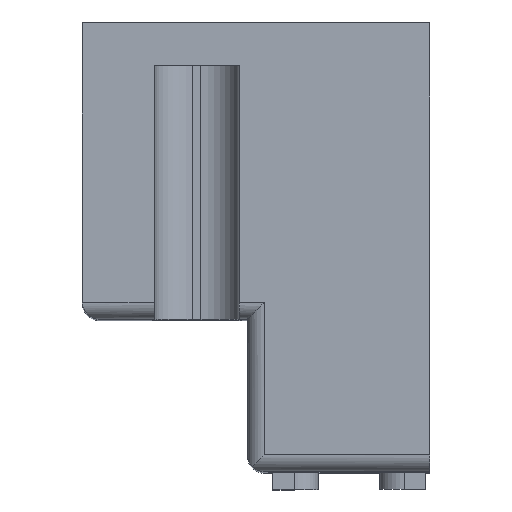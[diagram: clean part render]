
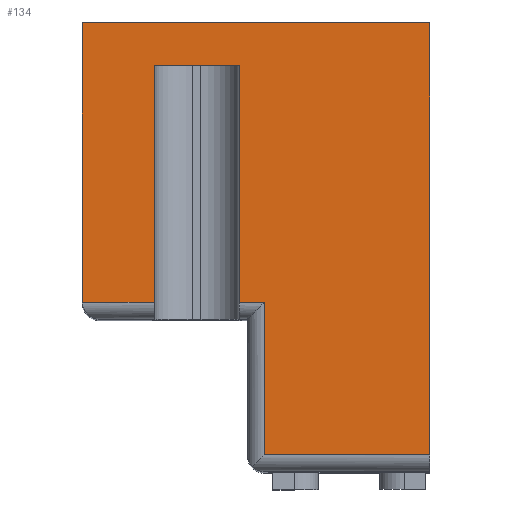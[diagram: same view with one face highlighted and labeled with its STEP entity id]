
A CAD part, top view. The second image highlights one B-rep face of the part: STEP entity #134.
In plain terms, the highlighted planar face has unit normal (0, 0, 1).
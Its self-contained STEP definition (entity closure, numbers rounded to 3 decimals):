
#134=ADVANCED_FACE('',(#549),#548,.F.);
#548=PLANE('',#2500);
#549=FACE_OUTER_BOUND('',#2501,.T.);
#2497=CARTESIAN_POINT('',(45.1,-61.1,62.2));
#2498=DIRECTION('',(0.,0.,-1.));
#2499=DIRECTION('',(-1.,0.,0.));
#2500=AXIS2_PLACEMENT_3D('',#2497,#2498,#2499);
#2501=EDGE_LOOP('',(#3583,#3584,#3585,#3586,#3587,#3588,#3589,#3590,#3591,#3592));
#3583=ORIENTED_EDGE('',*,*,#4550,.F.);
#3584=ORIENTED_EDGE('',*,*,#4583,.T.);
#3585=ORIENTED_EDGE('',*,*,#4584,.F.);
#3586=ORIENTED_EDGE('',*,*,#4585,.F.);
#3587=ORIENTED_EDGE('',*,*,#4586,.T.);
#3588=ORIENTED_EDGE('',*,*,#4479,.T.);
#3589=ORIENTED_EDGE('',*,*,#4587,.T.);
#3590=ORIENTED_EDGE('',*,*,#4588,.T.);
#3591=ORIENTED_EDGE('',*,*,#4481,.T.);
#3592=ORIENTED_EDGE('',*,*,#4589,.T.);
#4479=EDGE_CURVE('',#5206,#5220,#5227,.T.);
#4481=EDGE_CURVE('',#5241,#5234,#5242,.T.);
#4550=EDGE_CURVE('',#5716,#5723,#5724,.T.);
#4583=EDGE_CURVE('',#5716,#5948,#5949,.T.);
#4584=EDGE_CURVE('',#5955,#5948,#5956,.T.);
#4585=EDGE_CURVE('',#5962,#5955,#5963,.T.);
#4586=EDGE_CURVE('',#5962,#5206,#5969,.T.);
#4587=EDGE_CURVE('',#5220,#5975,#5976,.T.);
#4588=EDGE_CURVE('',#5975,#5241,#5982,.T.);
#4589=EDGE_CURVE('',#5234,#5723,#5988,.T.);
#5206=VERTEX_POINT('',#8566);
#5220=VERTEX_POINT('',#8575);
#5227=LINE('',#8579,#8580);
#5234=VERTEX_POINT('',#8583);
#5241=VERTEX_POINT('',#8587);
#5242=LINE('',#8588,#8589);
#5716=VERTEX_POINT('',#8863);
#5723=VERTEX_POINT('',#8867);
#5724=LINE('',#8868,#8869);
#5948=VERTEX_POINT('',#9002);
#5949=LINE('',#9003,#9004);
#5955=VERTEX_POINT('',#9006);
#5956=LINE('',#9007,#9008);
#5962=VERTEX_POINT('',#9010);
#5963=LINE('',#9011,#9012);
#5969=LINE('',#9014,#9015);
#5975=VERTEX_POINT('',#9017);
#5976=LINE('',#9018,#9019);
#5982=LINE('',#9021,#9022);
#5988=LINE('',#9024,#9025);
#8566=CARTESIAN_POINT('',(18.5,-38.,62.2));
#8575=CARTESIAN_POINT('',(21.5,-38.,62.2));
#8579=CARTESIAN_POINT('',(18.5,-38.,62.2));
#8580=VECTOR('',#8581,3.);
#8581=DIRECTION('',(1.,0.,0.));
#8583=CARTESIAN_POINT('',(41.,-5.,62.2));
#8587=CARTESIAN_POINT('',(41.,-56.,62.2));
#8588=CARTESIAN_POINT('',(41.,-56.,62.2));
#8589=VECTOR('',#8590,51.);
#8590=DIRECTION('',(0.,1.,0.));
#8863=CARTESIAN_POINT('',(0.,-38.,62.2));
#8867=CARTESIAN_POINT('',(0.,-5.,62.2));
#8868=CARTESIAN_POINT('',(0.,-38.,62.2));
#8869=VECTOR('',#8870,33.);
#8870=DIRECTION('',(0.,1.,0.));
#9002=CARTESIAN_POINT('',(8.5,-38.,62.2));
#9003=CARTESIAN_POINT('',(0.,-38.,62.2));
#9004=VECTOR('',#9005,8.5);
#9005=DIRECTION('',(1.,0.,0.));
#9006=CARTESIAN_POINT('',(8.5,-10.,62.2));
#9007=CARTESIAN_POINT('',(8.5,-10.,62.2));
#9008=VECTOR('',#9009,28.);
#9009=DIRECTION('',(0.,-1.,0.));
#9010=CARTESIAN_POINT('',(18.5,-10.,62.2));
#9011=CARTESIAN_POINT('',(18.5,-10.,62.2));
#9012=VECTOR('',#9013,10.);
#9013=DIRECTION('',(-1.,0.,0.));
#9014=CARTESIAN_POINT('',(18.5,-10.,62.2));
#9015=VECTOR('',#9016,28.);
#9016=DIRECTION('',(0.,-1.,0.));
#9017=CARTESIAN_POINT('',(21.5,-56.,62.2));
#9018=CARTESIAN_POINT('',(21.5,-38.,62.2));
#9019=VECTOR('',#9020,18.);
#9020=DIRECTION('',(0.,-1.,0.));
#9021=CARTESIAN_POINT('',(21.5,-56.,62.2));
#9022=VECTOR('',#9023,19.5);
#9023=DIRECTION('',(1.,0.,0.));
#9024=CARTESIAN_POINT('',(41.,-5.,62.2));
#9025=VECTOR('',#9026,41.);
#9026=DIRECTION('',(-1.,0.,0.));
